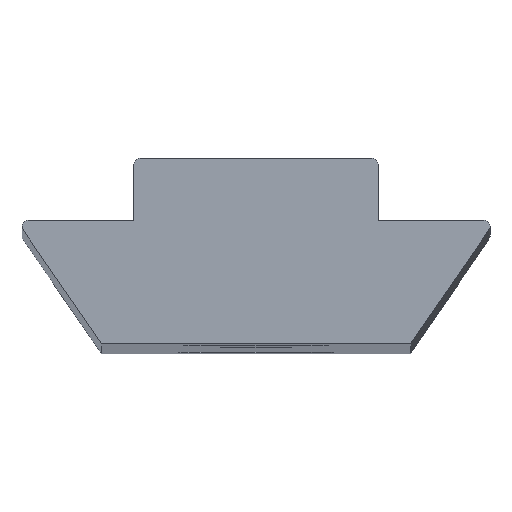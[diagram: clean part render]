
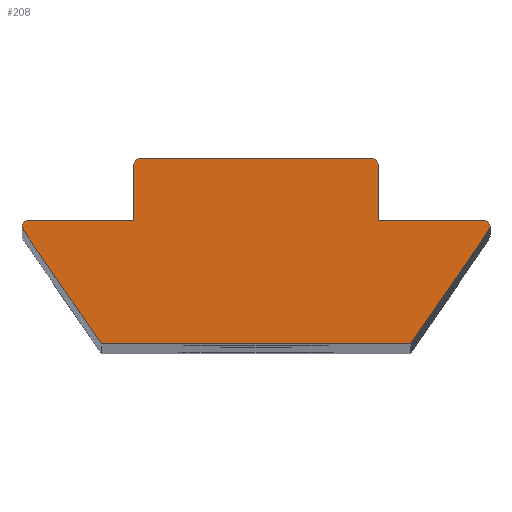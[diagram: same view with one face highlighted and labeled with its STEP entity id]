
A CAD part, top view. The second image highlights one B-rep face of the part: STEP entity #208.
In plain terms, the highlighted planar face has unit normal (0, 0, 1).
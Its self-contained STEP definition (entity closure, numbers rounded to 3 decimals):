
#3 = EDGE_CURVE ( 'NONE', #118, #285, #254, .T. ) ;
#5 = CARTESIAN_POINT ( 'NONE',  ( -7.57, 3.8, 90. ) ) ;
#10 = CARTESIAN_POINT ( 'NONE',  ( 3.95, 4., 90. ) ) ;
#43 = VERTEX_POINT ( 'NONE', #405 ) ;
#48 = CARTESIAN_POINT ( 'NONE',  ( 5., 0., 90. ) ) ;
#53 = LINE ( 'NONE', #352, #794 ) ;
#70 = DIRECTION ( 'NONE',  ( 0., 0., 1. ) ) ;
#71 = CARTESIAN_POINT ( 'NONE',  ( 3.75, 5.8, 90. ) ) ;
#106 = CARTESIAN_POINT ( 'NONE',  ( -3.95, 5.8, 90. ) ) ;
#112 = AXIS2_PLACEMENT_3D ( 'NONE', #71, #70, #802 ) ;
#118 = VERTEX_POINT ( 'NONE', #270 ) ;
#119 = CIRCLE ( 'NONE', #611, 0.2 ) ;
#122 = VERTEX_POINT ( 'NONE', #267 ) ;
#124 = ORIENTED_EDGE ( 'NONE', *, *, #199, .T. ) ;
#128 = EDGE_CURVE ( 'NONE', #290, #589, #731, .T. ) ;
#133 = DIRECTION ( 'NONE',  ( -1., 0., 0. ) ) ;
#137 = DIRECTION ( 'NONE',  ( 0., 0., 1. ) ) ;
#140 = VECTOR ( 'NONE', #241, 1000. ) ;
#152 = VERTEX_POINT ( 'NONE', #10 ) ;
#155 = VERTEX_POINT ( 'NONE', #5 ) ;
#164 = DIRECTION ( 'NONE',  ( 0.567, 0.824, 0. ) ) ;
#165 = LINE ( 'NONE', #744, #140 ) ;
#188 = CARTESIAN_POINT ( 'NONE',  ( 7.37, 4., 90. ) ) ;
#196 = CARTESIAN_POINT ( 'NONE',  ( -3.75, 5.8, 90. ) ) ;
#199 = EDGE_CURVE ( 'NONE', #152, #408, #677, .T. ) ;
#208 = ADVANCED_FACE ( 'NONE', ( #706 ), #700, .F. ) ;
#216 = CIRCLE ( 'NONE', #313, 0.2 ) ;
#228 = CARTESIAN_POINT ( 'NONE',  ( -7.535, 3.687, 90. ) ) ;
#230 = ORIENTED_EDGE ( 'NONE', *, *, #767, .T. ) ;
#232 = EDGE_CURVE ( 'NONE', #285, #152, #711, .T. ) ;
#241 = DIRECTION ( 'NONE',  ( 1., 0., 0. ) ) ;
#254 = CIRCLE ( 'NONE', #777, 0.2 ) ;
#256 = VERTEX_POINT ( 'NONE', #48 ) ;
#260 = AXIS2_PLACEMENT_3D ( 'NONE', #762, #661, #655 ) ;
#267 = CARTESIAN_POINT ( 'NONE',  ( 3.75, 6., 90. ) ) ;
#268 = CARTESIAN_POINT ( 'NONE',  ( 3.95, 5.8, 90. ) ) ;
#270 = CARTESIAN_POINT ( 'NONE',  ( 7.535, 3.687, 90. ) ) ;
#271 = ORIENTED_EDGE ( 'NONE', *, *, #232, .T. ) ;
#285 = VERTEX_POINT ( 'NONE', #188 ) ;
#289 = DIRECTION ( 'NONE',  ( 0., 0., 1. ) ) ;
#290 = VERTEX_POINT ( 'NONE', #533 ) ;
#296 = ORIENTED_EDGE ( 'NONE', *, *, #325, .T. ) ;
#303 = EDGE_LOOP ( 'NONE', ( #124, #707, #296, #727, #695, #230, #376, #439, #455, #779, #394, #536, #271 ) ) ;
#313 = AXIS2_PLACEMENT_3D ( 'NONE', #680, #289, #734 ) ;
#325 = EDGE_CURVE ( 'NONE', #122, #290, #570, .T. ) ;
#331 = EDGE_CURVE ( 'NONE', #589, #43, #551, .T. ) ;
#337 = VERTEX_POINT ( 'NONE', #660 ) ;
#352 = CARTESIAN_POINT ( 'NONE',  ( -7.75, 4., 90. ) ) ;
#358 = DIRECTION ( 'NONE',  ( 0., 0., 1. ) ) ;
#368 = AXIS2_PLACEMENT_3D ( 'NONE', #196, #137, #133 ) ;
#376 = ORIENTED_EDGE ( 'NONE', *, *, #622, .T. ) ;
#377 = EDGE_CURVE ( 'NONE', #667, #745, #459, .T. ) ;
#394 = ORIENTED_EDGE ( 'NONE', *, *, #697, .T. ) ;
#405 = CARTESIAN_POINT ( 'NONE',  ( -3.95, 4., 90. ) ) ;
#408 = VERTEX_POINT ( 'NONE', #268 ) ;
#428 = VECTOR ( 'NONE', #586, 1000. ) ;
#439 = ORIENTED_EDGE ( 'NONE', *, *, #713, .T. ) ;
#447 = EDGE_CURVE ( 'NONE', #408, #122, #514, .T. ) ;
#455 = ORIENTED_EDGE ( 'NONE', *, *, #377, .T. ) ;
#459 = LINE ( 'NONE', #523, #428 ) ;
#514 = CIRCLE ( 'NONE', #112, 0.2 ) ;
#523 = CARTESIAN_POINT ( 'NONE',  ( -5., 0., 90. ) ) ;
#525 = VECTOR ( 'NONE', #666, 1000. ) ;
#533 = CARTESIAN_POINT ( 'NONE',  ( -3.75, 6., 90. ) ) ;
#536 = ORIENTED_EDGE ( 'NONE', *, *, #3, .T. ) ;
#551 = LINE ( 'NONE', #710, #525 ) ;
#552 = EDGE_CURVE ( 'NONE', #745, #256, #165, .T. ) ;
#563 = LINE ( 'NONE', #631, #691 ) ;
#570 = LINE ( 'NONE', #764, #595 ) ;
#586 = DIRECTION ( 'NONE',  ( 0.567, -0.824, 0. ) ) ;
#587 = CARTESIAN_POINT ( 'NONE',  ( 7.75, 4., 90. ) ) ;
#589 = VERTEX_POINT ( 'NONE', #106 ) ;
#595 = VECTOR ( 'NONE', #768, 1000. ) ;
#611 = AXIS2_PLACEMENT_3D ( 'NONE', #742, #358, #805 ) ;
#619 = CARTESIAN_POINT ( 'NONE',  ( -5., 0., 90. ) ) ;
#622 = EDGE_CURVE ( 'NONE', #337, #155, #119, .T. ) ;
#631 = CARTESIAN_POINT ( 'NONE',  ( 5., 0., 90. ) ) ;
#651 = DIRECTION ( 'NONE',  ( -1., 0., 0. ) ) ;
#655 = DIRECTION ( 'NONE',  ( -1., 0., 0. ) ) ;
#656 = VECTOR ( 'NONE', #651, 1000. ) ;
#660 = CARTESIAN_POINT ( 'NONE',  ( -7.37, 4., 90. ) ) ;
#661 = DIRECTION ( 'NONE',  ( 0., 0., -1. ) ) ;
#666 = DIRECTION ( 'NONE',  ( 0., -1., 0. ) ) ;
#667 = VERTEX_POINT ( 'NONE', #228 ) ;
#677 = LINE ( 'NONE', #831, #787 ) ;
#680 = CARTESIAN_POINT ( 'NONE',  ( -7.37, 3.8, 90. ) ) ;
#691 = VECTOR ( 'NONE', #164, 1000. ) ;
#695 = ORIENTED_EDGE ( 'NONE', *, *, #331, .T. ) ;
#697 = EDGE_CURVE ( 'NONE', #256, #118, #563, .T. ) ;
#700 = PLANE ( 'NONE',  #260 ) ;
#706 = FACE_OUTER_BOUND ( 'NONE', #303, .T. ) ;
#707 = ORIENTED_EDGE ( 'NONE', *, *, #447, .T. ) ;
#710 = CARTESIAN_POINT ( 'NONE',  ( -3.95, 4., 90. ) ) ;
#711 = LINE ( 'NONE', #587, #656 ) ;
#713 = EDGE_CURVE ( 'NONE', #155, #667, #216, .T. ) ;
#717 = DIRECTION ( 'NONE',  ( 0., 0., 1. ) ) ;
#724 = CARTESIAN_POINT ( 'NONE',  ( 7.37, 3.8, 90. ) ) ;
#727 = ORIENTED_EDGE ( 'NONE', *, *, #128, .T. ) ;
#731 = CIRCLE ( 'NONE', #368, 0.2 ) ;
#734 = DIRECTION ( 'NONE',  ( -1., 0., 0. ) ) ;
#737 = DIRECTION ( 'NONE',  ( -1., 0., 0. ) ) ;
#742 = CARTESIAN_POINT ( 'NONE',  ( -7.37, 3.8, 90. ) ) ;
#744 = CARTESIAN_POINT ( 'NONE',  ( -5., 0., 90. ) ) ;
#745 = VERTEX_POINT ( 'NONE', #619 ) ;
#762 = CARTESIAN_POINT ( 'NONE',  ( 0., 0., 90. ) ) ;
#764 = CARTESIAN_POINT ( 'NONE',  ( 3.95, 6., 90. ) ) ;
#767 = EDGE_CURVE ( 'NONE', #43, #337, #53, .T. ) ;
#768 = DIRECTION ( 'NONE',  ( -1., 0., 0. ) ) ;
#777 = AXIS2_PLACEMENT_3D ( 'NONE', #724, #717, #781 ) ;
#779 = ORIENTED_EDGE ( 'NONE', *, *, #552, .T. ) ;
#781 = DIRECTION ( 'NONE',  ( -1., 0., 0. ) ) ;
#787 = VECTOR ( 'NONE', #836, 1000. ) ;
#794 = VECTOR ( 'NONE', #737, 1000. ) ;
#802 = DIRECTION ( 'NONE',  ( -1., 0., 0. ) ) ;
#805 = DIRECTION ( 'NONE',  ( -1., 0., 0. ) ) ;
#831 = CARTESIAN_POINT ( 'NONE',  ( 3.95, 4., 90. ) ) ;
#836 = DIRECTION ( 'NONE',  ( 0., 1., 0. ) ) ;
